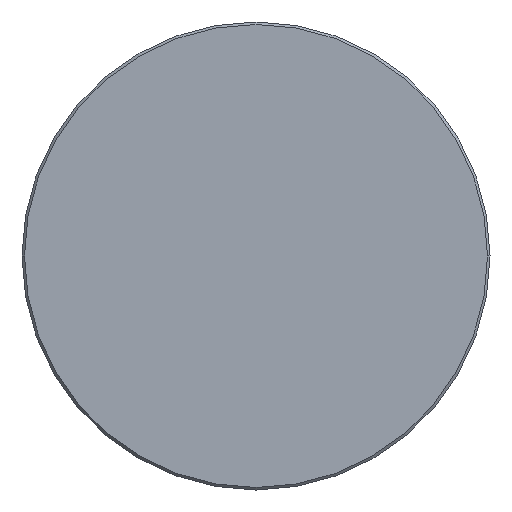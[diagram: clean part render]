
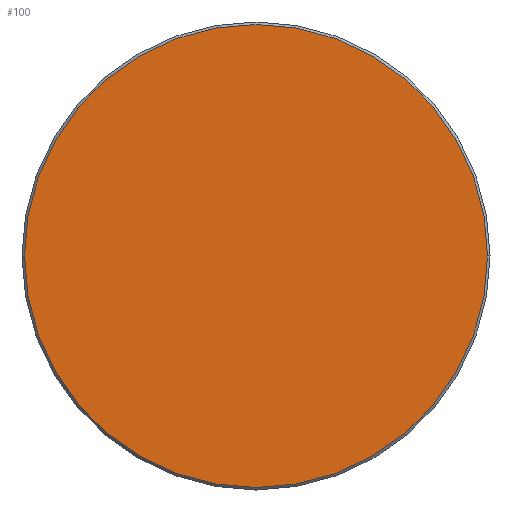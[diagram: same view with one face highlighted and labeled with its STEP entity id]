
A CAD part, left-side view. The second image highlights one B-rep face of the part: STEP entity #100.
In plain terms, the highlighted planar face has unit normal (-1, 0, 0).
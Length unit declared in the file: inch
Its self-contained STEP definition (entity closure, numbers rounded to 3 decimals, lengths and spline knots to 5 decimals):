
#2 = DIRECTION ( 'NONE',  ( -1., 0., 0. ) ) ;
#17 = ORIENTED_EDGE ( 'NONE', *, *, #371, .T. ) ;
#44 = DIRECTION ( 'NONE',  ( 0., -1., 0. ) ) ;
#47 = AXIS2_PLACEMENT_3D ( 'NONE', #368, #365, #44 ) ;
#55 = CIRCLE ( 'NONE', #47, 0.371 ) ;
#67 = DIRECTION ( 'NONE',  ( 0., -1., 0. ) ) ;
#68 = FACE_OUTER_BOUND ( 'NONE', #279, .T. ) ;
#83 = AXIS2_PLACEMENT_3D ( 'NONE', #299, #2, #67 ) ;
#100 = ADVANCED_FACE ( 'NONE', ( #68 ), #146, .T. ) ;
#121 = VERTEX_POINT ( 'NONE', #269 ) ;
#138 = EDGE_CURVE ( 'NONE', #121, #341, #170, .T. ) ;
#146 = PLANE ( 'NONE',  #252 ) ;
#152 = DIRECTION ( 'NONE',  ( -1., 0., 0. ) ) ;
#170 = CIRCLE ( 'NONE', #83, 0.371 ) ;
#179 = DIRECTION ( 'NONE',  ( 0., -1., 0. ) ) ;
#195 = CARTESIAN_POINT ( 'NONE',  ( 0., -0.371, 0. ) ) ;
#204 = CARTESIAN_POINT ( 'NONE',  ( 0., 0., 0. ) ) ;
#252 = AXIS2_PLACEMENT_3D ( 'NONE', #204, #152, #179 ) ;
#258 = ORIENTED_EDGE ( 'NONE', *, *, #138, .T. ) ;
#269 = CARTESIAN_POINT ( 'NONE',  ( 0., 0.371, 0. ) ) ;
#279 = EDGE_LOOP ( 'NONE', ( #258, #17 ) ) ;
#299 = CARTESIAN_POINT ( 'NONE',  ( 0., 0., 0. ) ) ;
#341 = VERTEX_POINT ( 'NONE', #195 ) ;
#365 = DIRECTION ( 'NONE',  ( -1., 0., 0. ) ) ;
#368 = CARTESIAN_POINT ( 'NONE',  ( 0., 0., 0. ) ) ;
#371 = EDGE_CURVE ( 'NONE', #341, #121, #55, .T. ) ;
